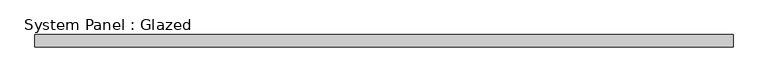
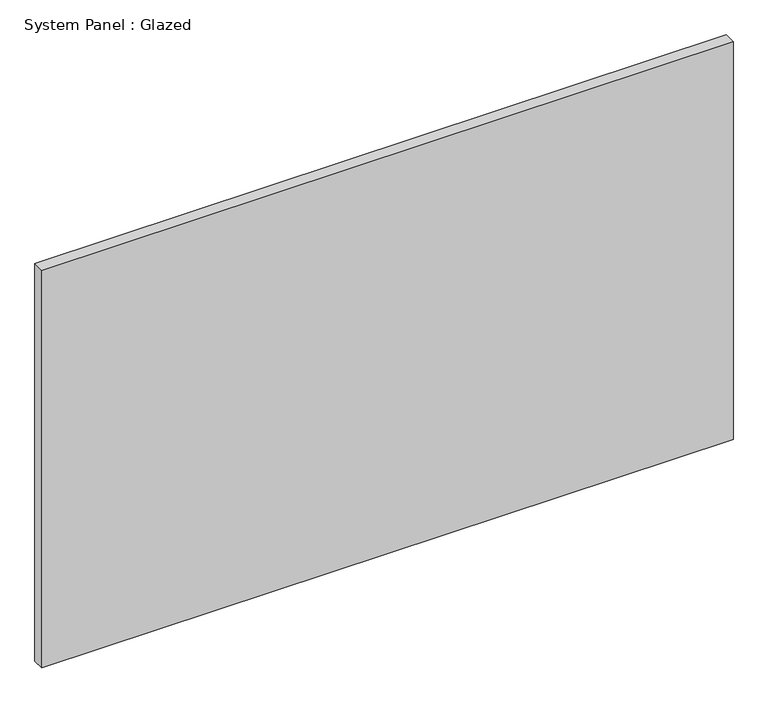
"""IFC4 building model written with IfcOpenShell, lengths in millimetres: plate geometry, System Panel : Glazed."""

import ifcopenshell
import ifcopenshell.guid

model = None  # the IFC model being written
_history = None  # IfcOwnerHistory: only IFC2X3 demands one
_inside = {}  # id of a spatial element -> (the spatial element, [elements in it])
_under = {}  # id of a project, library or spatial element -> (it, [spatial elements below it])
_declared = {}  # id of a project -> (the project, [libraries it declares])
_typed = {}  # id of a type object -> (the type object, [elements of that type])
_made_of = {}  # id of a material, layer set ... -> (it, [elements and type objects made of it])


def new_model(schema):
    """Start an empty IFC model of exactly this schema.

    Asked for "IFC4X3", IfcOpenShell would pick the latest addendum, in which some entities
    have other attributes; the version numbers below select the first issue.
    IFC2X3 requires an IfcOwnerHistory on every rooted entity: one is made here for all.
    """
    global model, _history
    if schema == "IFC4X3":
        model = ifcopenshell.file(schema_version=(4, 3, 0, 0))
    else:
        model = ifcopenshell.file(schema=schema)
    _inside.clear()
    _under.clear()
    _declared.clear()
    _typed.clear()
    _made_of.clear()
    _history = None
    if model.schema == "IFC2X3":
        org = make("IfcOrganization", Name="unknown")
        user = make(
            "IfcPersonAndOrganization",
            ThePerson=make("IfcPerson", FamilyName="unknown"),
            TheOrganization=org,
        )
        app = make(
            "IfcApplication",
            ApplicationDeveloper=org,
            Version="unknown",
            ApplicationFullName="unknown",
            ApplicationIdentifier="unknown",
        )
        _history = make(
            "IfcOwnerHistory",
            OwningUser=user,
            OwningApplication=app,
            ChangeAction="ADDED",
            CreationDate=0,
        )
    return model


def make(cls, **values):
    """One entity of the class cls with the attributes given. An attribute that is None is left unset."""
    return model.create_entity(
        cls, **{name: value for name, value in values.items() if value is not None}
    )


def rooted(cls, **values):
    """An entity with a GlobalId (a new one), such as an element, a storey or a relation."""
    return make(cls, GlobalId=ifcopenshell.guid.new(), OwnerHistory=_history, **values)


def si_unit(unit_type, name, prefix=None):
    """IfcSIUnit, for example si_unit("LENGTHUNIT", "METRE", prefix="MILLI")."""
    return make("IfcSIUnit", UnitType=unit_type, Prefix=prefix, Name=name)


def assignment(units):
    """IfcUnitAssignment: the units of a project."""
    return None if units is None else make("IfcUnitAssignment", Units=units)


def point(xyz):
    """IfcCartesianPoint."""
    return None if xyz is None else make("IfcCartesianPoint", Coordinates=xyz)


def direction(xyz):
    """IfcDirection."""
    return None if xyz is None else make("IfcDirection", DirectionRatios=xyz)


def frame(location, z_axis=None, x_axis=None):
    """IfcAxis2Placement3D, a coordinate frame: its origin and axes. An axis left out is left unset."""
    return make(
        "IfcAxis2Placement3D",
        Location=point(location),
        Axis=direction(z_axis),
        RefDirection=direction(x_axis),
    )


def origin():
    """The frame at (0, 0, 0) with its axes left unset."""
    return frame((0.0, 0.0, 0.0))


def origin_with_axes():
    """The frame at (0, 0, 0) with the z axis (0, 0, 1) and the x axis (1, 0, 0) written out."""
    return frame((0.0, 0.0, 0.0), z_axis=(0.0, 0.0, 1.0), x_axis=(1.0, 0.0, 0.0))


def place(relative_to, where):
    """IfcLocalPlacement: puts the frame where relative to a parent placement (None: the world)."""
    return make(
        "IfcLocalPlacement", PlacementRelTo=relative_to, RelativePlacement=where
    )


def context(
    kind, dimensions, precision=None, world=None, true_north=None, identifier=None
):
    """IfcGeometricRepresentationContext, for example the 3D "Model" context."""
    return make(
        "IfcGeometricRepresentationContext",
        ContextIdentifier=identifier,
        ContextType=kind,
        CoordinateSpaceDimension=dimensions,
        Precision=precision,
        WorldCoordinateSystem=world,
        TrueNorth=true_north,
    )


def project(units=None, contexts=None):
    """IfcProject with its units and contexts."""
    return rooted(
        "IfcProject",
        Name="project",
        RepresentationContexts=contexts,
        UnitsInContext=assignment(units),
    )


def spatial(cls, under=None, at=None, **own):
    """A site, building, storey or space (cls), placed at a placement, below another one or the project."""
    s = rooted(cls, ObjectPlacement=at, **own)
    if under is not None:
        _under.setdefault(under.id(), (under, []))[1].append(s)
    return s


def polyline(points):
    """IfcPolyline through the points."""
    return make("IfcPolyline", Points=[point(p) for p in points])


def outline(outer, holes=None, kind="AREA"):
    """IfcArbitraryClosedProfileDef: a profile drawn as a closed curve; with holes, ...WithVoids."""
    if holes is None:
        return make("IfcArbitraryClosedProfileDef", ProfileType=kind, OuterCurve=outer)
    return make(
        "IfcArbitraryProfileDefWithVoids",
        ProfileType=kind,
        OuterCurve=outer,
        InnerCurves=holes,
    )


def extrude(swept, where, along, depth):
    """IfcExtrudedAreaSolid: the profile swept, set in the frame where, extruded along a direction by depth."""
    return make(
        "IfcExtrudedAreaSolid",
        SweptArea=swept,
        Position=where,
        ExtrudedDirection=direction(along),
        Depth=depth,
    )


def shape(context_of_items, identifier, shape_type, items):
    """IfcShapeRepresentation: the items that make up one representation, for example the "Body"."""
    return make(
        "IfcShapeRepresentation",
        ContextOfItems=context_of_items,
        RepresentationIdentifier=identifier,
        RepresentationType=shape_type,
        Items=items,
    )


def source(mapping_origin, context_of_items, identifier, shape_type, items):
    """IfcRepresentationMap: a shape defined once, which mapped items show again and again."""
    return make(
        "IfcRepresentationMap",
        MappingOrigin=mapping_origin,
        MappedRepresentation=shape(context_of_items, identifier, shape_type, items),
    )


def transform(
    local_origin,
    x_axis=None,
    y_axis=None,
    z_axis=None,
    scale=None,
    scale2=None,
    scale3=None,
    uniform=True,
):
    """IfcCartesianTransformationOperator3D, or its non-uniform kind. x_axis, y_axis, z_axis: its Axis1, 2, 3."""
    if uniform:
        return make(
            "IfcCartesianTransformationOperator3D",
            Axis1=direction(x_axis),
            Axis2=direction(y_axis),
            LocalOrigin=point(local_origin),
            Scale=scale,
            Axis3=direction(z_axis),
        )
    return make(
        "IfcCartesianTransformationOperator3DnonUniform",
        Axis1=direction(x_axis),
        Axis2=direction(y_axis),
        LocalOrigin=point(local_origin),
        Scale=scale,
        Axis3=direction(z_axis),
        Scale2=scale2,
        Scale3=scale3,
    )


def mapped(mapping_source, mapping_target):
    """IfcMappedItem: shows the shape of a source again, moved by a transform."""
    return make(
        "IfcMappedItem", MappingSource=mapping_source, MappingTarget=mapping_target
    )


def made_of(thing, what):
    """Note that an element or type object is made of a material, layer set ...; save() writes the relation."""
    if what is not None:
        _made_of.setdefault(what.id(), (what, []))[1].append(thing)
    return thing


def element(
    cls,
    number,
    at=None,
    inside=None,
    cuts=None,
    type_object=None,
    material=None,
    context=None,
    identifier="Body",
    shape_type=None,
    held_by="IfcProductDefinitionShape",
    body=None,
    shapes=None,
    **own,
):
    """One element of the class cls, such as IfcWall. Its Tag is "e" and its number.

    at: its placement. inside: the storey or other place that contains it. cuts: it is an
    opening in that element (IfcRelVoidsElement). A single representation is given by context,
    identifier, shape_type and body (its items); several are given by shapes. held_by: the class
    of the entity that holds the representations. save() writes the other relations.
    """
    e = rooted(cls, Tag="e%d" % number, ObjectPlacement=at, **own)
    if body is not None:
        shapes = [shape(context, identifier, shape_type, body)]
    if shapes is not None:
        e.Representation = make(held_by, Representations=shapes)
    if inside is not None:
        _inside.setdefault(inside.id(), (inside, []))[1].append(e)
    if cuts is not None:
        rooted(
            "IfcRelVoidsElement", RelatingBuildingElement=cuts, RelatedOpeningElement=e
        )
    if type_object is not None:
        _typed.setdefault(type_object.id(), (type_object, []))[1].append(e)
    return made_of(e, material)


def aggregate(whole, parts):
    """IfcRelAggregates: a whole, such as a stair, and the parts it consists of."""
    return rooted("IfcRelAggregates", RelatingObject=whole, RelatedObjects=parts)


def save(model, path):
    """Write the relations noted so far, then the file.

    IfcRelAggregates (storeys below a building ...), IfcRelContainedInSpatialStructure (elements
    in a storey), IfcRelDefinesByType, IfcRelAssociatesMaterial and IfcRelDeclares: one each for
    every whole, place, type object, material and project.
    """
    for whole, parts in _under.values():
        aggregate(whole, parts)
    for where, things in _inside.values():
        rooted(
            "IfcRelContainedInSpatialStructure",
            RelatedElements=things,
            RelatingStructure=where,
        )
    for kind, things in _typed.values():
        rooted("IfcRelDefinesByType", RelatedObjects=things, RelatingType=kind)
    for what, things in _made_of.values():
        rooted("IfcRelAssociatesMaterial", RelatedObjects=things, RelatingMaterial=what)
    for by, libraries in _declared.values():
        rooted("IfcRelDeclares", RelatingContext=by, RelatedDefinitions=libraries)
    model.write(path)


def system_panel_glazed_3a8728e6(model_context):
    return source(origin(), model_context, "Body", "SweptSolid", [
        extrude(outline(polyline([(712.5000001, 24.5), (-712.5000001, 24.5), (-712.5000001, 49.5), (712.5000001, 49.5), (712.5000001, 24.5)])), origin_with_axes(), (0.0, 0.0, 1.0), 866.8785033),
    ])


if __name__ == "__main__":
    model = new_model("IFC4")
    model_context = context("Model", 3, world=origin())
    ifc_project = project(units=[si_unit("LENGTHUNIT", "METRE", prefix="MILLI")], contexts=[model_context])
    site = spatial("IfcSite", under=ifc_project)
    building = spatial("IfcBuilding", under=site)
    placement = place(None, origin())
    system_panel_glazed_shape = system_panel_glazed_3a8728e6(model_context)
    element("IfcPlate", 1, ObjectType="System Panel : Glazed", at=placement, inside=building, context=model_context, shape_type="MappedRepresentation", body=[
        mapped(system_panel_glazed_shape, transform((0.0, 0.0, 0.0), x_axis=(1.0, 0.0, 0.0), y_axis=(0.0, 1.0, 0.0), z_axis=(0.0, 0.0, 1.0))),
    ])
    save(model, "model.ifc")
